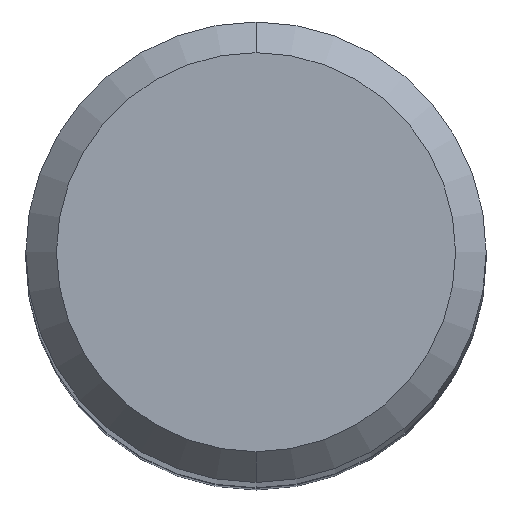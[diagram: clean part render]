
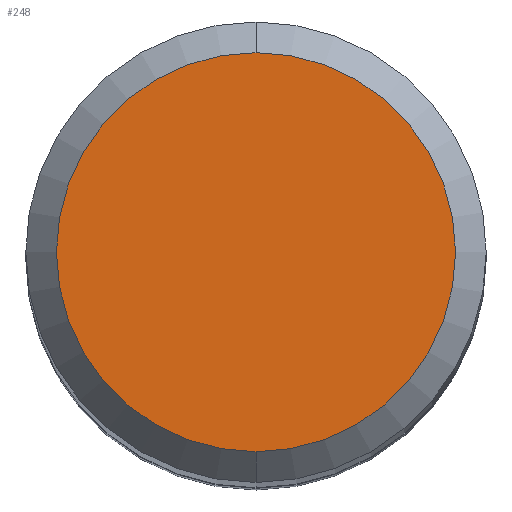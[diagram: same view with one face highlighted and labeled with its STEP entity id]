
A CAD part, top view. The second image highlights one B-rep face of the part: STEP entity #248.
In plain terms, the highlighted free-form (B-spline) face has degree [1, 1] with [2, 2] control points.
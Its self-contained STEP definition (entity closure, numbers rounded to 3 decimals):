
#31=CARTESIAN_POINT('',(0.,0.,0.));
#32=DIRECTION('',(0.,0.,1.));
#33=DIRECTION('',(0.,1.,0.));
#34=AXIS2_PLACEMENT_3D('',#31,#32,#33);
#36=CARTESIAN_POINT('',(0.,0.,0.));
#37=DIRECTION('',(0.,0.,-1.));
#38=DIRECTION('',(0.,1.,0.));
#39=AXIS2_PLACEMENT_3D('',#36,#37,#38);
#147=CARTESIAN_POINT('',(0.,2.6,0.));
#148=VERTEX_POINT('',#147);
#149=CARTESIAN_POINT('',(0.,-2.6,0.));
#150=VERTEX_POINT('',#149);
#239=CARTESIAN_POINT('',(2.704,2.704,0.));
#240=CARTESIAN_POINT('',(-2.704,2.704,0.));
#241=CARTESIAN_POINT('',(2.704,-2.704,0.));
#242=CARTESIAN_POINT('',(-2.704,-2.704,0.));
#243=B_SPLINE_SURFACE_WITH_KNOTS('',1,1,((#239,#240),(#241,#242)),.UNSPECIFIED.,
.F.,.F.,.F.,(2,2),(2,2),(-2.704,2.704),(-2.704,2.704),
.UNSPECIFIED.);
#244=ORIENTED_EDGE('',*,*,#224,.F.);
#245=ORIENTED_EDGE('',*,*,#192,.T.);
#246=EDGE_LOOP('',(#244,#245));
#247=FACE_OUTER_BOUND('',#246,.F.);
#35=CIRCLE('',#34,2.6);
#40=CIRCLE('',#39,2.6);
#192=EDGE_CURVE('',#148,#150,#40,.T.);
#224=EDGE_CURVE('',#148,#150,#35,.T.);
#248=ADVANCED_FACE('',(#247),#243,.F.);
